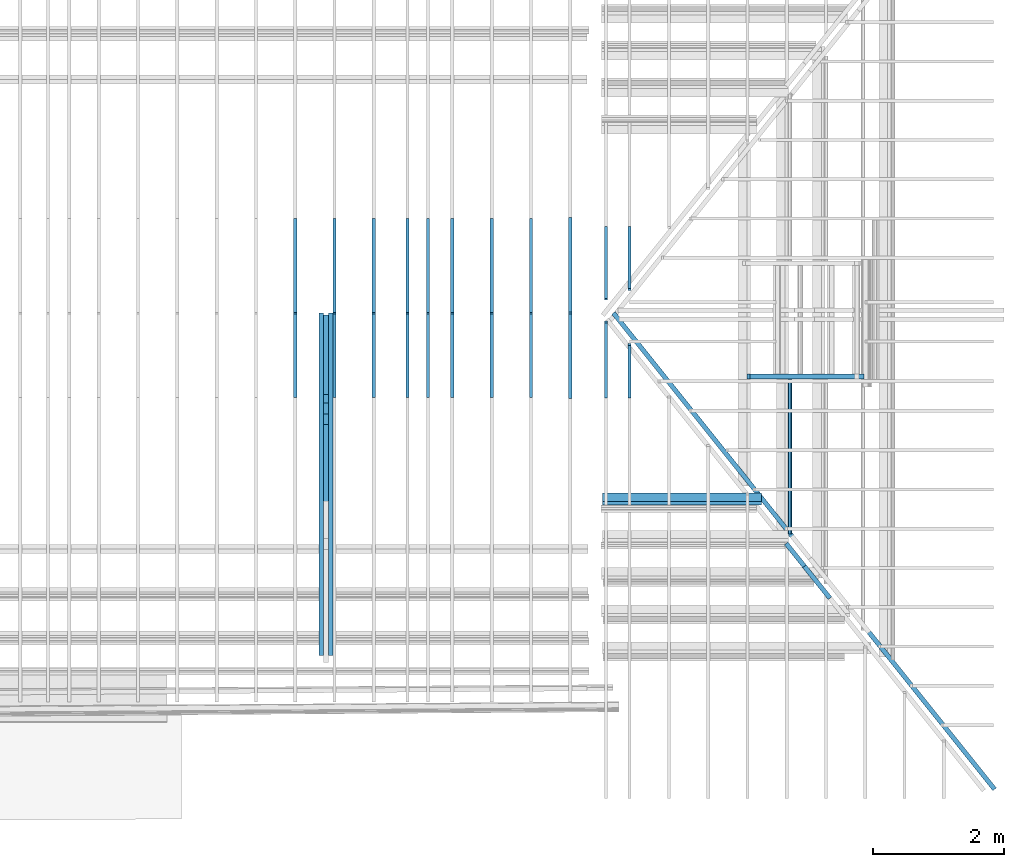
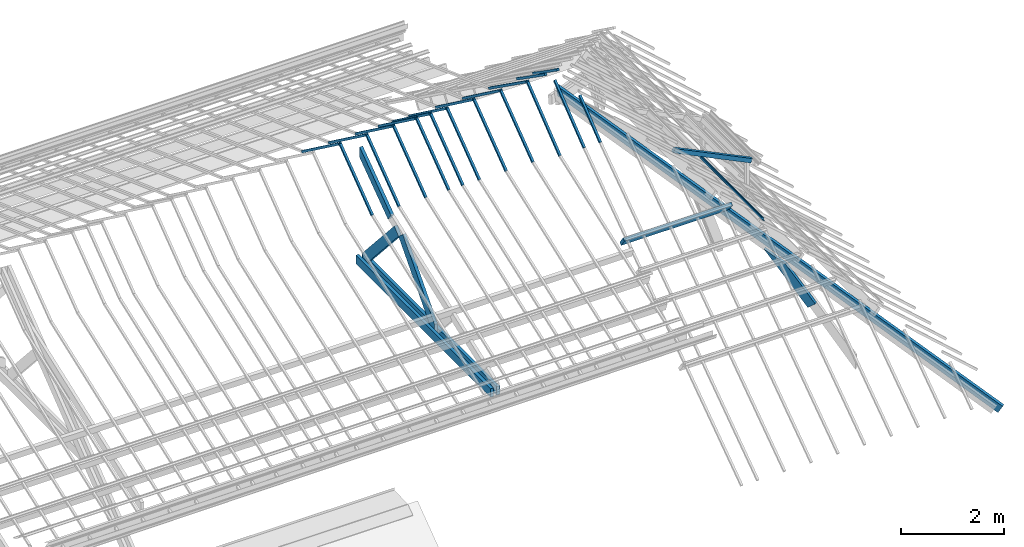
# One storey, part 11 of 18: 32 beams.
"""IFC2X3 building model written with IfcOpenShell, lengths in centimetres."""

import ifcopenshell
import ifcopenshell.guid

model = None  # the IFC model being written
_history = None  # IfcOwnerHistory: only IFC2X3 demands one
_inside = {}  # id of a spatial element -> (the spatial element, [elements in it])
_under = {}  # id of a project, library or spatial element -> (it, [spatial elements below it])
_declared = {}  # id of a project -> (the project, [libraries it declares])
_typed = {}  # id of a type object -> (the type object, [elements of that type])
_made_of = {}  # id of a material, layer set ... -> (it, [elements and type objects made of it])


def new_model(schema):
    """Start an empty IFC model of exactly this schema.

    Asked for "IFC4X3", IfcOpenShell would pick the latest addendum, in which some entities
    have other attributes; the version numbers below select the first issue.
    IFC2X3 requires an IfcOwnerHistory on every rooted entity: one is made here for all.
    """
    global model, _history
    if schema == "IFC4X3":
        model = ifcopenshell.file(schema_version=(4, 3, 0, 0))
    else:
        model = ifcopenshell.file(schema=schema)
    _inside.clear()
    _under.clear()
    _declared.clear()
    _typed.clear()
    _made_of.clear()
    _history = None
    if model.schema == "IFC2X3":
        org = make("IfcOrganization", Name="unknown")
        user = make(
            "IfcPersonAndOrganization",
            ThePerson=make("IfcPerson", FamilyName="unknown"),
            TheOrganization=org,
        )
        app = make(
            "IfcApplication",
            ApplicationDeveloper=org,
            Version="unknown",
            ApplicationFullName="unknown",
            ApplicationIdentifier="unknown",
        )
        _history = make(
            "IfcOwnerHistory",
            OwningUser=user,
            OwningApplication=app,
            ChangeAction="ADDED",
            CreationDate=0,
        )
    return model


def make(cls, **values):
    """One entity of the class cls with the attributes given. An attribute that is None is left unset."""
    return model.create_entity(
        cls, **{name: value for name, value in values.items() if value is not None}
    )


def entity(cls, *values):
    """Any entity or typed value of the class cls, its attributes in the order of the schema. None: left unset."""
    e = model.create_entity(cls)
    for i, value in enumerate(values):
        if value is not None:
            e[i] = value
    return e


def rooted(cls, **values):
    """An entity with a GlobalId (a new one), such as an element, a storey or a relation."""
    return make(cls, GlobalId=ifcopenshell.guid.new(), OwnerHistory=_history, **values)


def si_unit(unit_type, name, prefix=None):
    """IfcSIUnit, for example si_unit("LENGTHUNIT", "METRE", prefix="MILLI")."""
    return make("IfcSIUnit", UnitType=unit_type, Prefix=prefix, Name=name)


def converted_unit(unit_type, name, factor, base, dimensions=None, offset=None):
    """IfcConversionBasedUnit, such as the inch: factor (a typed value) times the base unit."""
    return make(
        "IfcConversionBasedUnit"
        if offset is None
        else "IfcConversionBasedUnitWithOffset",
        ConversionOffset=offset,
        Dimensions=None
        if dimensions is None
        else entity("IfcDimensionalExponents", *dimensions),
        UnitType=unit_type,
        Name=name,
        ConversionFactor=make(
            "IfcMeasureWithUnit", ValueComponent=factor, UnitComponent=base
        ),
    )


def assignment(units):
    """IfcUnitAssignment: the units of a project."""
    return None if units is None else make("IfcUnitAssignment", Units=units)


def point(xyz):
    """IfcCartesianPoint."""
    return None if xyz is None else make("IfcCartesianPoint", Coordinates=xyz)


def direction(xyz):
    """IfcDirection."""
    return None if xyz is None else make("IfcDirection", DirectionRatios=xyz)


def frame(location, z_axis=None, x_axis=None):
    """IfcAxis2Placement3D, a coordinate frame: its origin and axes. An axis left out is left unset."""
    return make(
        "IfcAxis2Placement3D",
        Location=point(location),
        Axis=direction(z_axis),
        RefDirection=direction(x_axis),
    )


def frame_2d(location, x_axis=None):
    """IfcAxis2Placement2D, a coordinate frame in the plane: its origin and x axis."""
    return make(
        "IfcAxis2Placement2D", Location=point(location), RefDirection=direction(x_axis)
    )


def origin():
    """The frame at (0, 0, 0) with its axes left unset."""
    return frame((0.0, 0.0, 0.0))


def origin_2d_with_axis():
    """The frame at (0, 0) in the plane with the x axis (1, 0) written out."""
    return frame_2d((0.0, 0.0), x_axis=(1.0, 0.0))


def place(relative_to, where):
    """IfcLocalPlacement: puts the frame where relative to a parent placement (None: the world)."""
    return make(
        "IfcLocalPlacement", PlacementRelTo=relative_to, RelativePlacement=where
    )


def context(
    kind, dimensions, precision=None, world=None, true_north=None, identifier=None
):
    """IfcGeometricRepresentationContext, for example the 3D "Model" context."""
    return make(
        "IfcGeometricRepresentationContext",
        ContextIdentifier=identifier,
        ContextType=kind,
        CoordinateSpaceDimension=dimensions,
        Precision=precision,
        WorldCoordinateSystem=world,
        TrueNorth=true_north,
    )


def subcontext(parent, identifier, kind, view, scale=None):
    """IfcGeometricRepresentationSubContext, for example "Body" below "Model"."""
    return make(
        "IfcGeometricRepresentationSubContext",
        ContextIdentifier=identifier,
        ContextType=kind,
        ParentContext=parent,
        TargetScale=scale,
        TargetView=view,
    )


def project(units=None, contexts=None):
    """IfcProject with its units and contexts."""
    return rooted(
        "IfcProject",
        Name="project",
        RepresentationContexts=contexts,
        UnitsInContext=assignment(units),
    )


def spatial(cls, under=None, at=None, **own):
    """A site, building, storey or space (cls), placed at a placement, below another one or the project."""
    s = rooted(cls, ObjectPlacement=at, **own)
    if under is not None:
        _under.setdefault(under.id(), (under, []))[1].append(s)
    return s


def polyline(points):
    """IfcPolyline through the points."""
    return make("IfcPolyline", Points=[point(p) for p in points])


def circle_curve(where, radius):
    """IfcCircle in the frame where."""
    return make("IfcCircle", Position=where, Radius=radius)


def parameter(value):
    """IfcParameterValue: where a trimmed curve begins or ends, as a parameter of its basis curve."""
    return model.create_entity("IfcParameterValue", value)


def trimmed(basis, trim1, trim2, sense, master):
    """IfcTrimmedCurve: the piece of a basis curve between two trims."""
    return make(
        "IfcTrimmedCurve",
        BasisCurve=basis,
        Trim1=trim1,
        Trim2=trim2,
        SenseAgreement=sense,
        MasterRepresentation=master,
    )


def segment(curve, same_sense, transition):
    """IfcCompositeCurveSegment."""
    return make(
        "IfcCompositeCurveSegment",
        Transition=transition,
        SameSense=same_sense,
        ParentCurve=curve,
    )


def composite_curve(segments, self_intersect=None):
    """IfcCompositeCurve: segments joined end to end."""
    return make("IfcCompositeCurve", Segments=segments, SelfIntersect=self_intersect)


def profile(cls, at=None, kind="AREA", **sizes):
    """A parametric profile (cls). Its sizes go by their IFC names, for example OverallWidth=200.0."""
    return make(cls, ProfileType=kind, Position=at, **sizes)


def rectangle(**sizes):
    """IfcRectangleProfileDef."""
    return profile("IfcRectangleProfileDef", **sizes)


def outline(outer, holes=None, kind="AREA"):
    """IfcArbitraryClosedProfileDef: a profile drawn as a closed curve; with holes, ...WithVoids."""
    if holes is None:
        return make("IfcArbitraryClosedProfileDef", ProfileType=kind, OuterCurve=outer)
    return make(
        "IfcArbitraryProfileDefWithVoids",
        ProfileType=kind,
        OuterCurve=outer,
        InnerCurves=holes,
    )


def extrude(swept, where, along, depth):
    """IfcExtrudedAreaSolid: the profile swept, set in the frame where, extruded along a direction by depth."""
    return make(
        "IfcExtrudedAreaSolid",
        SweptArea=swept,
        Position=where,
        ExtrudedDirection=direction(along),
        Depth=depth,
    )


def clip(a, b, op="DIFFERENCE"):
    """IfcBooleanClippingResult: the solid a cut by the half space b."""
    return make(
        "IfcBooleanClippingResult", Operator=op, FirstOperand=a, SecondOperand=b
    )


def halfspace(plane, agree):
    """IfcHalfSpaceSolid: all space on one side of the plane z = 0 of the frame plane."""
    return make(
        "IfcHalfSpaceSolid",
        BaseSurface=make("IfcPlane", Position=plane),
        AgreementFlag=agree,
    )


def bounded_halfspace(plane, agree, where, boundary):
    """IfcPolygonalBoundedHalfSpace: a half space limited to a polygon's prism."""
    return make(
        "IfcPolygonalBoundedHalfSpace",
        BaseSurface=make("IfcPlane", Position=plane),
        AgreementFlag=agree,
        Position=where,
        PolygonalBoundary=boundary,
    )


def shape(context_of_items, identifier, shape_type, items):
    """IfcShapeRepresentation: the items that make up one representation, for example the "Body"."""
    return make(
        "IfcShapeRepresentation",
        ContextOfItems=context_of_items,
        RepresentationIdentifier=identifier,
        RepresentationType=shape_type,
        Items=items,
    )


def material(Name=None, Category=None):
    """IfcMaterial."""
    return make("IfcMaterial", Name=Name, Category=Category)


def made_of(thing, what):
    """Note that an element or type object is made of a material, layer set ...; save() writes the relation."""
    if what is not None:
        _made_of.setdefault(what.id(), (what, []))[1].append(thing)
    return thing


def type_object(cls, material=None, **own):
    """A type object (cls), such as IfcWallType, which elements share."""
    return made_of(rooted(cls, **own), material)


def element(
    cls,
    number,
    at=None,
    inside=None,
    cuts=None,
    type_object=None,
    material=None,
    context=None,
    identifier="Body",
    shape_type=None,
    held_by="IfcProductDefinitionShape",
    body=None,
    shapes=None,
    **own,
):
    """One element of the class cls, such as IfcWall. Its Tag is "e" and its number.

    at: its placement. inside: the storey or other place that contains it. cuts: it is an
    opening in that element (IfcRelVoidsElement). A single representation is given by context,
    identifier, shape_type and body (its items); several are given by shapes. held_by: the class
    of the entity that holds the representations. save() writes the other relations.
    """
    e = rooted(cls, Tag="e%d" % number, ObjectPlacement=at, **own)
    if body is not None:
        shapes = [shape(context, identifier, shape_type, body)]
    if shapes is not None:
        e.Representation = make(held_by, Representations=shapes)
    if inside is not None:
        _inside.setdefault(inside.id(), (inside, []))[1].append(e)
    if cuts is not None:
        rooted(
            "IfcRelVoidsElement", RelatingBuildingElement=cuts, RelatedOpeningElement=e
        )
    if type_object is not None:
        _typed.setdefault(type_object.id(), (type_object, []))[1].append(e)
    return made_of(e, material)


def aggregate(whole, parts):
    """IfcRelAggregates: a whole, such as a stair, and the parts it consists of."""
    return rooted("IfcRelAggregates", RelatingObject=whole, RelatedObjects=parts)


def save(model, path):
    """Write the relations noted so far, then the file.

    IfcRelAggregates (storeys below a building ...), IfcRelContainedInSpatialStructure (elements
    in a storey), IfcRelDefinesByType, IfcRelAssociatesMaterial and IfcRelDeclares: one each for
    every whole, place, type object, material and project.
    """
    for whole, parts in _under.values():
        aggregate(whole, parts)
    for where, things in _inside.values():
        rooted(
            "IfcRelContainedInSpatialStructure",
            RelatedElements=things,
            RelatingStructure=where,
        )
    for kind, things in _typed.values():
        rooted("IfcRelDefinesByType", RelatedObjects=things, RelatingType=kind)
    for what, things in _made_of.values():
        rooted("IfcRelAssociatesMaterial", RelatedObjects=things, RelatingMaterial=what)
    for by, libraries in _declared.values():
        rooted("IfcRelDeclares", RelatingContext=by, RelatedDefinitions=libraries)
    model.write(path)


model = new_model("IFC2X3")

# Units and contexts
model_context = context("Model", 3, precision=0.001, world=frame((0.0, 0.0, 13090.0)), true_north=direction((6.123233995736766e-17, 1.0)))
body_context = subcontext(model_context, "Body", "Model", "MODEL_VIEW")
ifc_project = project(units=[si_unit("LENGTHUNIT", "METRE", prefix="CENTI"), si_unit("AREAUNIT", "SQUARE_METRE"), si_unit("VOLUMEUNIT", "CUBIC_METRE"), converted_unit("PLANEANGLEUNIT", "DEGREE", entity("IfcPlaneAngleMeasure", 0.017453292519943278), si_unit("PLANEANGLEUNIT", "RADIAN"), dimensions=[0, 0, 0, 0, 0, 0, 0])], contexts=[model_context])

# Site, building, storey
site_placement = place(None, origin())
site = spatial("IfcSite", under=ifc_project, at=site_placement, Name="Default", CompositionType="ELEMENT")
building_placement = place(site_placement, origin())
building = spatial("IfcBuilding", under=site, at=building_placement, Name="e 39 logements et 22 maisons relais", CompositionType="ELEMENT")
storey_placement = place(building_placement, frame((0.0, 0.0, 610.0)))
storey = spatial("IfcBuildingStorey", under=building, at=storey_placement, Name="R+2", CompositionType="ELEMENT", Elevation=609.9999999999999)

# Beams
ifc_material_1 = material(Name="Bois - Bois de construction de dimensions courantes")
beam_type_1 = type_object("IfcBeamType", Name="Poutre - Bois de construction de dimensions courantes:70 220", PredefinedType="BEAM")
beam_1_placement = place(storey_placement, frame((286.63480771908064, -310.73868274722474, 57.876960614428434)))
element("IfcBeam", 1, at=beam_1_placement, inside=storey, type_object=beam_type_1, material=ifc_material_1, Name="Poutre - Bois de construction de dimensions courantes:70 220", ObjectType="Poutre - Bois de construction de dimensions courantes:70 220", context=body_context, shape_type="SweptSolid", body=[
    extrude(rectangle(XDim=21.999999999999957, YDim=7.00000000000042, at=frame_2d((6.039613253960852e-14, -8.43769498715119e-15), x_axis=(1.0, 0.0))), frame((322.5262084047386, 6.309340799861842, -9.010672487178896), z_axis=(1.0, 0.0, 0.0), x_axis=(0.0, -0.5735764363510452, 0.8191520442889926)), (0.0, 0.0, 1.0), 242.7423181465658),
])
beam_2_placement = place(storey_placement, frame((186.86823692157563, -287.80091473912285, 292.3300309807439), z_axis=(1.0, 0.0, 0.0), x_axis=(0.0, 0.6653624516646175, -0.7465204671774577)))
element("IfcBeam", 2, at=beam_2_placement, inside=storey, type_object=beam_type_1, material=ifc_material_1, Name="Poutre - Bois de construction de dimensions courantes:70 220", ObjectType="Poutre - Bois de construction de dimensions courantes:70 220", context=body_context, shape_type="Clipping", body=[
    clip(clip(extrude(rectangle(XDim=21.999999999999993, YDim=7.00000000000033, at=frame_2d((1.354472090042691e-14, 0.0), x_axis=(0.0, 1.0))), frame((195.67509437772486, -11.0, 0.0), z_axis=(1.0, 0.0, 0.0), x_axis=(0.0, 0.0, -1.0)), (0.0, 0.0, 1.0), 209.16611798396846), bounded_halfspace(frame((394.7277030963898, -32.06071602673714, -409.30146352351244), z_axis=(0.7465204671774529, -0.6653624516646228, 0.0), x_axis=(0.0, 0.0, 1.0)), False, frame((195.67509437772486, -11.0, 0.0), z_axis=(1.0, 0.0, 0.0), x_axis=(0.0, 0.0, -1.0)), polyline([(3.5000000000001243, -9.71360492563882), (-3.500000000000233, -9.71360492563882), (-3.5000000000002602, -11.0), (3.5000000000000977, -11.0), (3.5000000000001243, -9.71360492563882)]))), bounded_halfspace(frame((404.8412123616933, -20.713604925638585, -409.30146352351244), z_axis=(0.6653624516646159, 0.7465204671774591, 0.0), x_axis=(0.0, 0.0, 1.0)), False, frame((195.67509437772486, -11.0, 0.0), z_axis=(1.0, 0.0, 0.0), x_axis=(0.0, 0.0, -1.0)), polyline([(-3.500000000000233, -9.71360492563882), (3.5000000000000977, -9.71360492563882), (3.500000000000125, 11.0), (-3.500000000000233, 11.0), (-3.500000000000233, -9.71360492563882)]))),
])
beam_3_placement = place(storey_placement, frame((186.86823692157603, -60.25809424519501, 292.33003098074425), z_axis=(1.0, 0.0, 0.0), x_axis=(0.0, -0.665362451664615, -0.7465204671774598)))
element("IfcBeam", 3, at=beam_3_placement, inside=storey, type_object=beam_type_1, material=ifc_material_1, Name="Poutre - Bois de construction de dimensions courantes:70 220", ObjectType="Poutre - Bois de construction de dimensions courantes:70 220", context=body_context, shape_type="Clipping", body=[
    clip(clip(extrude(rectangle(XDim=21.999999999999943, YDim=7.00000000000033, at=frame_2d((0.0, 0.0), x_axis=(0.0, 1.0))), frame((195.67509437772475, 11.0, 0.0), z_axis=(1.0, 0.0, 0.0), x_axis=(0.0, 0.0, -1.0)), (0.0, 0.0, 1.0), 209.16611798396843), bounded_halfspace(frame((394.7277030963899, 32.0607160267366, 409.30146352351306), z_axis=(0.7465204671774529, 0.6653624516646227, 0.0), x_axis=(0.0, 0.0, -1.0)), False, frame((195.67509437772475, 11.0, 0.0), z_axis=(1.0, 0.0, 0.0), x_axis=(0.0, 0.0, -1.0)), polyline([(-3.5000000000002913, 9.71360492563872), (3.5000000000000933, 9.713604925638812), (3.500000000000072, 11.0), (-3.5000000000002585, 11.0), (-3.5000000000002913, 9.71360492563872)]))), bounded_halfspace(frame((404.84121236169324, 20.713604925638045, 409.30146352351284), z_axis=(0.6653624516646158, -0.746520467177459, 0.0), x_axis=(0.0, 0.0, -1.0)), False, frame((195.67509437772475, 11.0, 0.0), z_axis=(1.0, 0.0, 0.0), x_axis=(0.0, 0.0, -1.0)), polyline([(3.5000000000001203, 9.713604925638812), (-3.5000000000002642, 9.71360492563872), (-3.500000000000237, -11.0), (3.5000000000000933, -11.0), (3.5000000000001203, 9.713604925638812)]))),
])
beam_type_2 = type_object("IfcBeamType", Name="Poutre - Bois de construction de dimensions courantes:70 200", PredefinedType="BEAM")
beam_4_placement = place(storey_placement, frame((1002.3676844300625, -512.9809315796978, -86.81401463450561), z_axis=(0.9217856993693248, 0.20375373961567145, 0.32984168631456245), x_axis=(-0.38769978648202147, 0.48443999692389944, 0.7842236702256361)))
element("IfcBeam", 4, at=beam_4_placement, inside=storey, type_object=beam_type_2, material=ifc_material_1, Name="Poutre - Bois de construction de dimensions courantes:70 200", ObjectType="Poutre - Bois de construction de dimensions courantes:70 200", context=body_context, shape_type="Clipping", body=[
    clip(extrude(rectangle(XDim=20.00000000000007, YDim=7.000000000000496, at=frame_2d((8.659739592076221e-15, -9.325873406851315e-14), x_axis=(0.0, 1.0))), frame((14.537391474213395, -77.92401202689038, -48.90652665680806), z_axis=(1.0, 0.0, 0.0), x_axis=(0.0, -0.5315926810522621, 0.8470001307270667)), (0.0, 0.0, 1.0), 147.165746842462), halfspace(frame((73.5082495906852, -242.99654886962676, 266.4991478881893), z_axis=(0.3943864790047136, 0.7783462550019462, 0.4885042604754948), x_axis=(0.0, 0.5315926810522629, -0.8470001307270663)), False)),
])
beam_5_placement = place(storey_placement, frame((955.4665799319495, -431.9711728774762, 41.66223729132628), z_axis=(0.30661229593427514, -0.38311927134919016, 0.8713257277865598), x_axis=(-0.5444394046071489, 0.6802898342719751, 0.49070508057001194)))
element("IfcBeam", 5, at=beam_5_placement, inside=storey, type_object=beam_type_2, material=ifc_material_1, Name="Poutre - Bois de construction de dimensions courantes:70 200", ObjectType="Poutre - Bois de construction de dimensions courantes:70 200", context=body_context, shape_type="Clipping", body=[
    clip(extrude(rectangle(XDim=19.999999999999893, YDim=7.000000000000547, at=frame_2d((4.707345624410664e-14, 0.0), x_axis=(1.0, 0.0))), frame((-510.18109924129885, 0.0, -92.0), z_axis=(1.0, 0.0, 0.0), x_axis=(0.0, 0.0, -1.0)), (0.0, 0.0, 1.0), 1069.470140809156), halfspace(frame((586.4413157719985, -1089.1103774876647, -48.04863382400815), z_axis=(0.7809677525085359, 0.0, -0.6245713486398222), x_axis=(0.0, 1.0, 0.0)), False)),
])
beam_6_placement = place(storey_placement, frame((193.86823692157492, -332.3095908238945, -3.6742749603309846), z_axis=(0.0, 0.0, 1.0), x_axis=(0.0, 1.0, 0.0)))
element("IfcBeam", 6, at=beam_6_placement, inside=storey, type_object=beam_type_2, material=ifc_material_1, Name="Poutre - Bois de construction de dimensions courantes:70 200", ObjectType="Poutre - Bois de construction de dimensions courantes:70 200", context=body_context, shape_type="SweptSolid", body=[
    extrude(rectangle(XDim=20.0, YDim=7.000000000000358, at=origin_2d_with_axis()), frame((-210.6772711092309, 0.0, -10.0), z_axis=(1.0, 0.0, 0.0), x_axis=(0.0, 0.0, -1.0)), (0.0, 0.0, 1.0), 522.595774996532),
])
beam_7_placement = place(storey_placement, frame((186.8682369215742, -500.4436825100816, -67.0), z_axis=(0.0, -0.5866860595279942, 0.8098144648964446), x_axis=(0.0, 0.8098144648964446, 0.5866860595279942)))
element("IfcBeam", 7, at=beam_7_placement, inside=storey, type_object=beam_type_2, material=ifc_material_1, Name="Poutre - Bois de construction de dimensions courantes:70 200", ObjectType="Poutre - Bois de construction de dimensions courantes:70 200", context=body_context, shape_type="Clipping", body=[
    clip(extrude(rectangle(XDim=20.00000000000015, YDim=7.000000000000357, at=frame_2d((-5.950795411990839e-14, -1.354472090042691e-14), x_axis=(1.0, 0.0))), frame((423.32403291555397, 0.0, -32.0), z_axis=(1.0, 0.0, 0.0), x_axis=(0.0, 0.0, -1.0)), (0.0, 0.0, 1.0), 150.41669308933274), halfspace(frame((588.2587075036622, -590.4589342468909, -1.9655790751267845), z_axis=(0.8097443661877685, 0.0, -0.5867828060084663), x_axis=(0.0, 1.0, 0.0)), False)),
])
beam_8_placement = place(storey_placement, frame((179.86823692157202, -332.3095908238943, -3.6742749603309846), z_axis=(0.0, 0.0, 1.0), x_axis=(0.0, 1.0, 0.0)))
element("IfcBeam", 8, at=beam_8_placement, inside=storey, type_object=beam_type_2, material=ifc_material_1, Name="Poutre - Bois de construction de dimensions courantes:70 200", ObjectType="Poutre - Bois de construction de dimensions courantes:70 200", context=body_context, shape_type="SweptSolid", body=[
    extrude(rectangle(XDim=20.0, YDim=7.00000000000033, at=origin_2d_with_axis()), frame((-210.67727110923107, 0.0, -10.0), z_axis=(1.0, 0.0, 0.0), x_axis=(0.0, 0.0, -1.0)), (0.0, 0.0, 1.0), 522.595774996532),
])
beam_type_3 = type_object("IfcBeamType", Name="Poutre - Bois de construction de dimensions courantes:70 100", PredefinedType="BEAM")
beam_9_placement = place(storey_placement, frame((1003.4066515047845, -117.10894739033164, 86.0), z_axis=(0.4378263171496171, 0.0, 0.8990595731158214), x_axis=(-0.8990595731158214, 0.0, 0.4378263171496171)))
element("IfcBeam", 9, at=beam_9_placement, inside=storey, type_object=beam_type_3, material=ifc_material_1, Name="Poutre - Bois de construction de dimensions courantes:70 100", ObjectType="Poutre - Bois de construction de dimensions courantes:70 100", context=body_context, shape_type="SweptSolid", body=[
    extrude(rectangle(XDim=9.999999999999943, YDim=7.000000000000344, at=frame_2d((-9.725553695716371e-14, 6.8833827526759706e-15), x_axis=(1.0, 0.0))), frame((-44.31312898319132, 0.0, -85.0), z_axis=(1.0, 0.0, 0.0), x_axis=(0.0, 0.0, -1.0)), (0.0, 0.0, 1.0), 193.3164622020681),
])
ifc_material_2 = material(Name="neuf")
beam_type_4 = type_object("IfcBeamType", Name="panne z:panne z", PredefinedType="BEAM")
beam_10_placement = place(storey_placement, frame((907.6910789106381, 175.50766774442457, 48.760264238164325), z_axis=(0.0, 0.0, 1.0), x_axis=(0.0, -1.0, 0.0)))
element("IfcBeam", 10, at=beam_10_placement, inside=storey, type_object=beam_type_4, material=ifc_material_2, Name="panne z:panne z", ObjectType="panne z:panne z", context=body_context, shape_type="SweptSolid", body=[
    extrude(outline(composite_curve([segment(polyline([(0.299999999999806, -3.0), (4.599999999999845, -3.0)]), True, "CONTINUOUS"), segment(trimmed(circle_curve(frame_2d((4.599999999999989, -2.6000000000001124), x_axis=(0.0, -1.0)), 0.399999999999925), [parameter(0.0)], [parameter(90.000000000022)], True, "PARAMETER"), True, "CONTINUOUS"), segment(polyline([(5.0, -2.6000000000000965), (5.0, -1.0)]), True, "CONTINUOUS"), segment(polyline([(5.0, -1.0), (4.799999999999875, -1.0)]), True, "CONTINUOUS"), segment(polyline([(4.799999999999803, -1.0), (4.7999999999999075, -2.6000000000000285)]), True, "CONTINUOUS"), segment(trimmed(circle_curve(frame_2d((4.599999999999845, -2.5999999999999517), x_axis=(1.0, 0.0)), 0.20000000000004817), [parameter(270.0000000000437)], [parameter(0.0)], True, "PARAMETER"), False, "CONTINUOUS"), segment(polyline([(4.599999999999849, -2.7999999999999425), (0.2999999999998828, -2.8000000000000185)]), True, "CONTINUOUS"), segment(trimmed(circle_curve(frame_2d((0.2999999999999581, -2.5999999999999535), x_axis=(0.0, -1.0)), 0.2000000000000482), [parameter(270.0000000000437)], [parameter(0.0)], True, "PARAMETER"), False, "CONTINUOUS"), segment(polyline([(0.09999999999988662, -2.60000000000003), (0.09999999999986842, 2.5999999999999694)]), True, "CONTINUOUS"), segment(trimmed(circle_curve(frame_2d((-0.3000000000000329, 2.6000000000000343), x_axis=(1.0, 0.0)), 0.399999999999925), [parameter(0.0)], [parameter(90.000000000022)], True, "PARAMETER"), True, "CONTINUOUS"), segment(polyline([(-0.3000000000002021, 3.0), (-4.600000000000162, 3.0)]), True, "CONTINUOUS"), segment(trimmed(circle_curve(frame_2d((-4.600000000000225, 2.6000000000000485), x_axis=(0.0, 1.0)), 0.399999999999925), [parameter(0.0)], [parameter(90.000000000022)], True, "PARAMETER"), True, "CONTINUOUS"), segment(polyline([(-5.0, 2.5999999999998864), (-5.0, 1.0)]), True, "CONTINUOUS"), segment(polyline([(-5.0, 1.0), (-4.80000000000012, 1.0)]), True, "CONTINUOUS"), segment(polyline([(-4.800000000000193, 1.0), (-4.800000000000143, 2.599999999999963)]), True, "CONTINUOUS"), segment(trimmed(circle_curve(frame_2d((-4.6000000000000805, 2.5999999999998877), x_axis=(-1.0, 0.0)), 0.20000000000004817), [parameter(270.0000000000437)], [parameter(0.0)], True, "PARAMETER"), False, "CONTINUOUS"), segment(polyline([(-4.600000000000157, 2.799999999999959), (-0.30000000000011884, 2.7999999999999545)]), True, "CONTINUOUS"), segment(trimmed(circle_curve(frame_2d((-0.3000000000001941, 2.5999999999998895), x_axis=(0.0, 1.0)), 0.2000000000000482), [parameter(270.0000000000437)], [parameter(0.0)], True, "PARAMETER"), False, "CONTINUOUS"), segment(polyline([(-0.10000000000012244, 2.599999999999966), (-0.10000000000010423, -2.600000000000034)]), True, "CONTINUOUS"), segment(trimmed(circle_curve(frame_2d((0.29999999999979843, -2.6000000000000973), x_axis=(-1.0, 0.0)), 0.399999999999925), [parameter(0.0)], [parameter(90.000000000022)], True, "PARAMETER"), True, "CONTINUOUS")], self_intersect=False)), frame((289.1166151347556, -12.50098828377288, -13.883754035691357), z_axis=(1.0, 0.0, 0.0), x_axis=(0.0, -0.7431448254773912, 0.6691306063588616)), (0.0, 0.0, 1.0), 244.29886542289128),
])
beam_type_5 = type_object("IfcBeamType", Name="Poutre - Bois de construction de dimensions courantes:50 50", PredefinedType="BEAM")
beam_11_placement = place(storey_placement, frame((650.5865180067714, -500.16700612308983, -20.923849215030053), z_axis=(0.0, -0.6203078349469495, 0.7843584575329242), x_axis=(0.0, 0.7843584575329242, 0.6203078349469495)))
element("IfcBeam", 11, at=beam_11_placement, inside=storey, type_object=beam_type_5, material=ifc_material_1, Name="Poutre - Bois de construction de dimensions courantes:50 50", ObjectType="Poutre - Bois de construction de dimensions courantes:50 50", context=body_context, shape_type="SweptSolid", body=[
    extrude(rectangle(XDim=5.000000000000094, YDim=5.000000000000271, at=frame_2d((-2.0294876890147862e-13, 1.0835776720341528e-13), x_axis=(1.0, 0.0))), frame((397.2866003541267, 0.0, -64.50000000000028), z_axis=(1.0, 0.0, 0.0), x_axis=(0.0, 0.0, -1.0)), (0.0, 0.0, 1.0), 102.15774819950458),
])
beam_12_placement = place(storey_placement, frame((650.586518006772, 472.4075955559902, 7.664975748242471), z_axis=(0.0, 0.5729907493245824, 0.8195618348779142), x_axis=(0.0, -0.8195618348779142, 0.5729907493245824)))
element("IfcBeam", 12, at=beam_12_placement, inside=storey, type_object=beam_type_5, material=ifc_material_1, Name="Poutre - Bois de construction de dimensions courantes:50 50", ObjectType="Poutre - Bois de construction de dimensions courantes:50 50", context=body_context, shape_type="SweptSolid", body=[
    extrude(rectangle(XDim=4.999999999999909, YDim=5.000000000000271, at=frame_2d((7.771561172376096e-15, 5.417888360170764e-14), x_axis=(1.0, 0.0))), frame((396.1208550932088, 0.0, -64.50000000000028), z_axis=(1.0, 0.0, 0.0), x_axis=(0.0, 0.0, -1.0)), (0.0, 0.0, 1.0), 115.76714547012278),
])
beam_13_placement = place(storey_placement, frame((139.8237665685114, 465.8322165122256, -4.125801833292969), z_axis=(0.0, 0.5923999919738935, 0.8056439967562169), x_axis=(0.0, -0.8056439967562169, 0.5923999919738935)))
element("IfcBeam", 13, at=beam_13_placement, inside=storey, type_object=beam_type_5, material=ifc_material_1, Name="Poutre - Bois de construction de dimensions courantes:50 50", ObjectType="Poutre - Bois de construction de dimensions courantes:50 50", context=body_context, shape_type="SweptSolid", body=[
    extrude(rectangle(XDim=4.99999999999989, YDim=5.000000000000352, at=frame_2d((7.993605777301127e-15, -1.354472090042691e-14), x_axis=(1.0, 0.0))), frame((378.2668122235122, 0.0, -64.50000000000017), z_axis=(1.0, 0.0, 0.0), x_axis=(0.0, 0.0, -1.0)), (0.0, 0.0, 1.0), 183.04182029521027),
])
beam_14_placement = place(storey_placement, frame((139.823766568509, -508.30595625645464, -9.594498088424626), z_axis=(0.0, -0.6008803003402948, 0.7993390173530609), x_axis=(0.0, 0.7993390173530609, 0.6008803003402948)))
element("IfcBeam", 14, at=beam_14_placement, inside=storey, type_object=beam_type_5, material=ifc_material_1, Name="Poutre - Bois de construction de dimensions courantes:50 50", ObjectType="Poutre - Bois de construction de dimensions courantes:50 50", context=body_context, shape_type="SweptSolid", body=[
    extrude(rectangle(XDim=4.999999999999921, YDim=5.000000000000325, at=frame_2d((0.0, 2.708944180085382e-14), x_axis=(1.0, 0.0))), frame((402.3128471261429, 0.0, -64.49999999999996), z_axis=(1.0, 0.0, 0.0), x_axis=(0.0, 0.0, -1.0)), (0.0, 0.0, 1.0), 159.4441778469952),
])
beam_15_placement = place(storey_placement, frame((439.85901227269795, 465.83221651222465, -4.125801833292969), z_axis=(0.0, 0.5923999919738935, 0.8056439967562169), x_axis=(0.0, -0.8056439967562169, 0.5923999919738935)))
element("IfcBeam", 15, at=beam_15_placement, inside=storey, type_object=beam_type_5, material=ifc_material_1, Name="Poutre - Bois de construction de dimensions courantes:50 50", ObjectType="Poutre - Bois de construction de dimensions courantes:50 50", context=body_context, shape_type="SweptSolid", body=[
    extrude(rectangle(XDim=4.99999999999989, YDim=5.000000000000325, at=frame_2d((8.215650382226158e-15, 2.708944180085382e-14), x_axis=(1.0, 0.0))), frame((378.2668122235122, 0.0, -64.50000000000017), z_axis=(1.0, 0.0, 0.0), x_axis=(0.0, 0.0, -1.0)), (0.0, 0.0, 1.0), 183.04182029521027),
])
beam_16_placement = place(storey_placement, frame((439.85901227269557, -508.3059562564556, -9.594498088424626), z_axis=(0.0, -0.6008803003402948, 0.7993390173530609), x_axis=(0.0, 0.7993390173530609, 0.6008803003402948)))
element("IfcBeam", 16, at=beam_16_placement, inside=storey, type_object=beam_type_5, material=ifc_material_1, Name="Poutre - Bois de construction de dimensions courantes:50 50", ObjectType="Poutre - Bois de construction de dimensions courantes:50 50", context=body_context, shape_type="SweptSolid", body=[
    extrude(rectangle(XDim=4.999999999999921, YDim=5.000000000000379, at=origin_2d_with_axis()), frame((402.31284712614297, 0.0, -64.50000000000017), z_axis=(1.0, 0.0, 0.0), x_axis=(0.0, 0.0, -1.0)), (0.0, 0.0, 1.0), 159.4441778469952),
])
beam_17_placement = place(storey_placement, frame((379.85901227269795, 465.8322165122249, -4.125801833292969), z_axis=(0.0, 0.5923999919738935, 0.8056439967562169), x_axis=(0.0, -0.8056439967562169, 0.5923999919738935)))
element("IfcBeam", 17, at=beam_17_placement, inside=storey, type_object=beam_type_5, material=ifc_material_1, Name="Poutre - Bois de construction de dimensions courantes:50 50", ObjectType="Poutre - Bois de construction de dimensions courantes:50 50", context=body_context, shape_type="SweptSolid", body=[
    extrude(rectangle(XDim=4.99999999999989, YDim=5.000000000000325, at=frame_2d((8.215650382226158e-15, 2.708944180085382e-14), x_axis=(1.0, 0.0))), frame((378.2668122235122, 0.0, -64.50000000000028), z_axis=(1.0, 0.0, 0.0), x_axis=(0.0, 0.0, -1.0)), (0.0, 0.0, 1.0), 183.04182029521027),
])
beam_18_placement = place(storey_placement, frame((379.85901227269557, -508.30595625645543, -9.594498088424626), z_axis=(0.0, -0.6008803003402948, 0.7993390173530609), x_axis=(0.0, 0.7993390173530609, 0.6008803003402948)))
element("IfcBeam", 18, at=beam_18_placement, inside=storey, type_object=beam_type_5, material=ifc_material_1, Name="Poutre - Bois de construction de dimensions courantes:50 50", ObjectType="Poutre - Bois de construction de dimensions courantes:50 50", context=body_context, shape_type="SweptSolid", body=[
    extrude(rectangle(XDim=4.999999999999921, YDim=5.000000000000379, at=frame_2d((0.0, 5.417888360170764e-14), x_axis=(1.0, 0.0))), frame((402.31284712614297, 0.0, -64.50000000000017), z_axis=(1.0, 0.0, 0.0), x_axis=(0.0, 0.0, -1.0)), (0.0, 0.0, 1.0), 159.4441778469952),
])
beam_19_placement = place(storey_placement, frame((311.35051896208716, 465.8322165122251, -4.125801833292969), z_axis=(0.0, 0.5923999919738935, 0.8056439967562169), x_axis=(0.0, -0.8056439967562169, 0.5923999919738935)))
element("IfcBeam", 19, at=beam_19_placement, inside=storey, type_object=beam_type_5, material=ifc_material_1, Name="Poutre - Bois de construction de dimensions courantes:50 50", ObjectType="Poutre - Bois de construction de dimensions courantes:50 50", context=body_context, shape_type="SweptSolid", body=[
    extrude(rectangle(XDim=4.99999999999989, YDim=5.000000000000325, at=frame_2d((8.215650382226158e-15, 2.708944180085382e-14), x_axis=(1.0, 0.0))), frame((378.2668122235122, 0.0, -64.50000000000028), z_axis=(1.0, 0.0, 0.0), x_axis=(0.0, 0.0, -1.0)), (0.0, 0.0, 1.0), 183.04182029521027),
])
beam_20_placement = place(storey_placement, frame((311.3505189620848, -508.3059562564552, -9.594498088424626), z_axis=(0.0, -0.6008803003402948, 0.7993390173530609), x_axis=(0.0, 0.7993390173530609, 0.6008803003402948)))
element("IfcBeam", 20, at=beam_20_placement, inside=storey, type_object=beam_type_5, material=ifc_material_1, Name="Poutre - Bois de construction de dimensions courantes:50 50", ObjectType="Poutre - Bois de construction de dimensions courantes:50 50", context=body_context, shape_type="SweptSolid", body=[
    extrude(rectangle(XDim=4.999999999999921, YDim=5.000000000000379, at=origin_2d_with_axis()), frame((402.31284712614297, 0.0, -64.50000000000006), z_axis=(1.0, 0.0, 0.0), x_axis=(0.0, 0.0, -1.0)), (0.0, 0.0, 1.0), 159.4441778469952),
])
beam_21_placement = place(storey_placement, frame((259.8590122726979, 465.83221651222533, -4.125801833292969), z_axis=(0.0, 0.5923999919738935, 0.8056439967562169), x_axis=(0.0, -0.8056439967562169, 0.5923999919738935)))
element("IfcBeam", 21, at=beam_21_placement, inside=storey, type_object=beam_type_5, material=ifc_material_1, Name="Poutre - Bois de construction de dimensions courantes:50 50", ObjectType="Poutre - Bois de construction de dimensions courantes:50 50", context=body_context, shape_type="SweptSolid", body=[
    extrude(rectangle(XDim=4.99999999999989, YDim=5.000000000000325, at=frame_2d((8.215650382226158e-15, 2.708944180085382e-14), x_axis=(1.0, 0.0))), frame((378.26681222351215, 0.0, -64.50000000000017), z_axis=(1.0, 0.0, 0.0), x_axis=(0.0, 0.0, -1.0)), (0.0, 0.0, 1.0), 183.04182029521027),
])
beam_22_placement = place(storey_placement, frame((259.85901227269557, -508.305956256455, -9.594498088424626), z_axis=(0.0, -0.6008803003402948, 0.7993390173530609), x_axis=(0.0, 0.7993390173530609, 0.6008803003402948)))
element("IfcBeam", 22, at=beam_22_placement, inside=storey, type_object=beam_type_5, material=ifc_material_1, Name="Poutre - Bois de construction de dimensions courantes:50 50", ObjectType="Poutre - Bois de construction de dimensions courantes:50 50", context=body_context, shape_type="SweptSolid", body=[
    extrude(rectangle(XDim=4.999999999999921, YDim=5.000000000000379, at=frame_2d((0.0, 5.417888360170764e-14), x_axis=(1.0, 0.0))), frame((402.31284712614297, 0.0, -64.50000000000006), z_axis=(1.0, 0.0, 0.0), x_axis=(0.0, 0.0, -1.0)), (0.0, 0.0, 1.0), 159.4441778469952),
])
beam_23_placement = place(storey_placement, frame((199.8237665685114, 465.83221651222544, -4.125801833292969), z_axis=(0.0, 0.5923999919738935, 0.8056439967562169), x_axis=(0.0, -0.8056439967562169, 0.5923999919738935)))
element("IfcBeam", 23, at=beam_23_placement, inside=storey, type_object=beam_type_5, material=ifc_material_1, Name="Poutre - Bois de construction de dimensions courantes:50 50", ObjectType="Poutre - Bois de construction de dimensions courantes:50 50", context=body_context, shape_type="SweptSolid", body=[
    extrude(rectangle(XDim=4.99999999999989, YDim=5.000000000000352, at=frame_2d((7.993605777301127e-15, -4.04121180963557e-14), x_axis=(1.0, 0.0))), frame((378.2668122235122, 0.0, -64.50000000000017), z_axis=(1.0, 0.0, 0.0), x_axis=(0.0, 0.0, -1.0)), (0.0, 0.0, 1.0), 183.04182029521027),
])
beam_24_placement = place(storey_placement, frame((199.823766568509, -508.30595625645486, -9.594498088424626), z_axis=(0.0, -0.6008803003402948, 0.7993390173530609), x_axis=(0.0, 0.7993390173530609, 0.6008803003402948)))
element("IfcBeam", 24, at=beam_24_placement, inside=storey, type_object=beam_type_5, material=ifc_material_1, Name="Poutre - Bois de construction de dimensions courantes:50 50", ObjectType="Poutre - Bois de construction de dimensions courantes:50 50", context=body_context, shape_type="SweptSolid", body=[
    extrude(rectangle(XDim=4.999999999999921, YDim=5.000000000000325, at=origin_2d_with_axis()), frame((402.3128471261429, 0.0, -64.50000000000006), z_axis=(1.0, 0.0, 0.0), x_axis=(0.0, 0.0, -1.0)), (0.0, 0.0, 1.0), 159.4441778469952),
])
beam_25_placement = place(storey_placement, frame((559.8590122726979, 469.98581754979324, 3.177536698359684), z_axis=(0.0, 0.5804020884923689, 0.8143300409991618), x_axis=(0.0, -0.8143300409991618, 0.5804020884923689)))
element("IfcBeam", 25, at=beam_25_placement, inside=storey, type_object=beam_type_5, material=ifc_material_1, Name="Poutre - Bois de construction de dimensions courantes:50 50", ObjectType="Poutre - Bois de construction de dimensions courantes:50 50", context=body_context, shape_type="SweptSolid", body=[
    extrude(rectangle(XDim=4.99999999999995, YDim=5.000000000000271, at=frame_2d((-6.772360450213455e-14, 0.0), x_axis=(1.0, 0.0))), frame((378.26681222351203, 0.0, -64.50000000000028), z_axis=(1.0, 0.0, 0.0), x_axis=(0.0, 0.0, -1.0)), (0.0, 0.0, 1.0), 183.0418202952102),
])
beam_26_placement = place(storey_placement, frame((559.8590122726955, -501.4917227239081, -20.791837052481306), z_axis=(0.0, -0.6191801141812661, 0.7852489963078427), x_axis=(0.0, 0.7852489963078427, 0.6191801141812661)))
element("IfcBeam", 26, at=beam_26_placement, inside=storey, type_object=beam_type_5, material=ifc_material_1, Name="Poutre - Bois de construction de dimensions courantes:50 50", ObjectType="Poutre - Bois de construction de dimensions courantes:50 50", context=body_context, shape_type="SweptSolid", body=[
    extrude(rectangle(XDim=4.999999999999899, YDim=5.000000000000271, at=frame_2d((-5.906386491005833e-14, 5.417888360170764e-14), x_axis=(1.0, 0.0))), frame((398.1664836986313, 0.0, -64.50000000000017), z_axis=(1.0, 0.0, 0.0), x_axis=(0.0, 0.0, -1.0)), (0.0, 0.0, 1.0), 163.59054127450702),
])
beam_27_placement = place(storey_placement, frame((499.8590122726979, 465.8322165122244, -4.125801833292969), z_axis=(0.0, 0.5923999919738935, 0.8056439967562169), x_axis=(0.0, -0.8056439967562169, 0.5923999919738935)))
element("IfcBeam", 27, at=beam_27_placement, inside=storey, type_object=beam_type_5, material=ifc_material_1, Name="Poutre - Bois de construction de dimensions courantes:50 50", ObjectType="Poutre - Bois de construction de dimensions courantes:50 50", context=body_context, shape_type="SweptSolid", body=[
    extrude(rectangle(XDim=4.99999999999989, YDim=5.000000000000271, at=frame_2d((8.215650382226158e-15, 0.0), x_axis=(1.0, 0.0))), frame((378.2668122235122, 0.0, -64.50000000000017), z_axis=(1.0, 0.0, 0.0), x_axis=(0.0, 0.0, -1.0)), (0.0, 0.0, 1.0), 183.04182029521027),
])
beam_28_placement = place(storey_placement, frame((499.8590122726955, -508.30595625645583, -9.594498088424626), z_axis=(0.0, -0.6008803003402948, 0.7993390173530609), x_axis=(0.0, 0.7993390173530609, 0.6008803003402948)))
element("IfcBeam", 28, at=beam_28_placement, inside=storey, type_object=beam_type_5, material=ifc_material_1, Name="Poutre - Bois de construction de dimensions courantes:50 50", ObjectType="Poutre - Bois de construction de dimensions courantes:50 50", context=body_context, shape_type="SweptSolid", body=[
    extrude(rectangle(XDim=4.999999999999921, YDim=5.000000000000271, at=frame_2d((0.0, -5.417888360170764e-14), x_axis=(1.0, 0.0))), frame((402.31284712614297, 0.0, -64.50000000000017), z_axis=(1.0, 0.0, 0.0), x_axis=(0.0, 0.0, -1.0)), (0.0, 0.0, 1.0), 159.4441778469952),
])
beam_29_placement = place(storey_placement, frame((342.7505189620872, 465.832216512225, -4.125801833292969), z_axis=(0.0, 0.5923999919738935, 0.8056439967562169), x_axis=(0.0, -0.8056439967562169, 0.5923999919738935)))
element("IfcBeam", 29, at=beam_29_placement, inside=storey, type_object=beam_type_5, material=ifc_material_1, Name="Poutre - Bois de construction de dimensions courantes:50 50", ObjectType="Poutre - Bois de construction de dimensions courantes:50 50", context=body_context, shape_type="SweptSolid", body=[
    extrude(rectangle(XDim=4.99999999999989, YDim=5.000000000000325, at=frame_2d((8.215650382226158e-15, 2.708944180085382e-14), x_axis=(1.0, 0.0))), frame((378.26681222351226, 0.0, -64.50000000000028), z_axis=(1.0, 0.0, 0.0), x_axis=(0.0, 0.0, -1.0)), (0.0, 0.0, 1.0), 183.04182029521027),
])
beam_30_placement = place(storey_placement, frame((342.7505189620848, -508.3059562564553, -9.594498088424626), z_axis=(0.0, -0.6008803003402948, 0.7993390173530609), x_axis=(0.0, 0.7993390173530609, 0.6008803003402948)))
element("IfcBeam", 30, at=beam_30_placement, inside=storey, type_object=beam_type_5, material=ifc_material_1, Name="Poutre - Bois de construction de dimensions courantes:50 50", ObjectType="Poutre - Bois de construction de dimensions courantes:50 50", context=body_context, shape_type="SweptSolid", body=[
    extrude(rectangle(XDim=4.999999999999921, YDim=5.000000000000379, at=origin_2d_with_axis()), frame((402.31284712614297, 0.0, -64.50000000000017), z_axis=(1.0, 0.0, 0.0), x_axis=(0.0, 0.0, -1.0)), (0.0, 0.0, 1.0), 159.4441778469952),
])
beam_31_placement = place(storey_placement, frame((614.4865180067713, -500.1670061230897, -20.923849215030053), z_axis=(0.0, -0.6203078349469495, 0.7843584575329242), x_axis=(0.0, 0.7843584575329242, 0.6203078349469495)))
element("IfcBeam", 31, at=beam_31_placement, inside=storey, type_object=beam_type_5, material=ifc_material_1, Name="Poutre - Bois de construction de dimensions courantes:50 50", ObjectType="Poutre - Bois de construction de dimensions courantes:50 50", context=body_context, shape_type="SweptSolid", body=[
    extrude(rectangle(XDim=4.999999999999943, YDim=5.000000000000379, at=frame_2d((-1.438849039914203e-13, 0.0), x_axis=(1.0, 0.0))), frame((397.2866003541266, 0.0, -64.50000000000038), z_axis=(1.0, 0.0, 0.0), x_axis=(0.0, 0.0, -1.0)), (0.0, 0.0, 1.0), 146.53606648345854),
])
beam_32_placement = place(storey_placement, frame((614.486518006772, 472.4075955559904, 7.664975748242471), z_axis=(0.0, 0.5729907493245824, 0.8195618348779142), x_axis=(0.0, -0.8195618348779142, 0.5729907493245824)))
element("IfcBeam", 32, at=beam_32_placement, inside=storey, type_object=beam_type_5, material=ifc_material_1, Name="Poutre - Bois de construction de dimensions courantes:50 50", ObjectType="Poutre - Bois de construction de dimensions courantes:50 50", context=body_context, shape_type="SweptSolid", body=[
    extrude(rectangle(XDim=5.0000000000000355, YDim=5.000000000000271, at=frame_2d((-5.972999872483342e-14, 5.417888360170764e-14), x_axis=(1.0, 0.0))), frame((396.1208550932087, 0.0, -64.50000000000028), z_axis=(1.0, 0.0, 0.0), x_axis=(0.0, 0.0, -1.0)), (0.0, 0.0, 1.0), 134.21921818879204),
])

save(model, "model.ifc")
